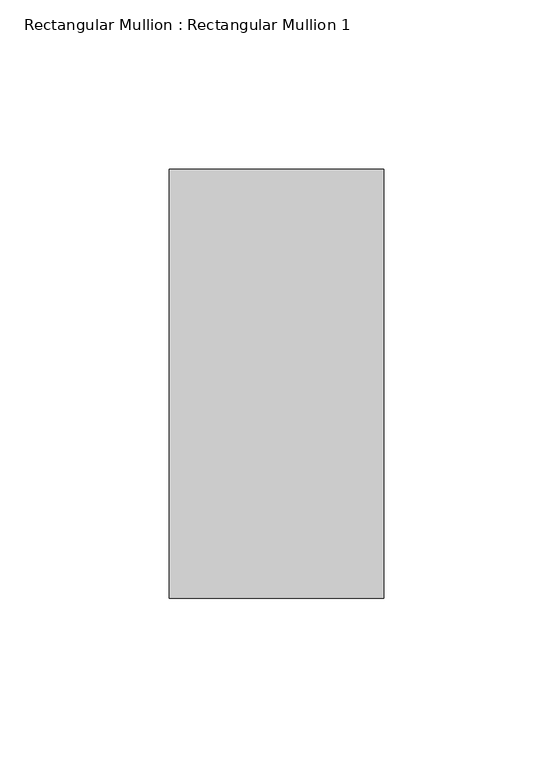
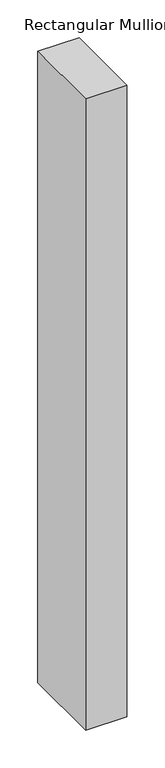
"""IFC4 building model written with IfcOpenShell, lengths in millimetres: member geometry, Rectangular Mullion : Rectangular Mullion 1."""

import ifcopenshell
import ifcopenshell.guid

model = None  # the IFC model being written
_history = None  # IfcOwnerHistory: only IFC2X3 demands one
_inside = {}  # id of a spatial element -> (the spatial element, [elements in it])
_under = {}  # id of a project, library or spatial element -> (it, [spatial elements below it])
_declared = {}  # id of a project -> (the project, [libraries it declares])
_typed = {}  # id of a type object -> (the type object, [elements of that type])
_made_of = {}  # id of a material, layer set ... -> (it, [elements and type objects made of it])


def new_model(schema):
    """Start an empty IFC model of exactly this schema.

    Asked for "IFC4X3", IfcOpenShell would pick the latest addendum, in which some entities
    have other attributes; the version numbers below select the first issue.
    IFC2X3 requires an IfcOwnerHistory on every rooted entity: one is made here for all.
    """
    global model, _history
    if schema == "IFC4X3":
        model = ifcopenshell.file(schema_version=(4, 3, 0, 0))
    else:
        model = ifcopenshell.file(schema=schema)
    _inside.clear()
    _under.clear()
    _declared.clear()
    _typed.clear()
    _made_of.clear()
    _history = None
    if model.schema == "IFC2X3":
        org = make("IfcOrganization", Name="unknown")
        user = make(
            "IfcPersonAndOrganization",
            ThePerson=make("IfcPerson", FamilyName="unknown"),
            TheOrganization=org,
        )
        app = make(
            "IfcApplication",
            ApplicationDeveloper=org,
            Version="unknown",
            ApplicationFullName="unknown",
            ApplicationIdentifier="unknown",
        )
        _history = make(
            "IfcOwnerHistory",
            OwningUser=user,
            OwningApplication=app,
            ChangeAction="ADDED",
            CreationDate=0,
        )
    return model


def make(cls, **values):
    """One entity of the class cls with the attributes given. An attribute that is None is left unset."""
    return model.create_entity(
        cls, **{name: value for name, value in values.items() if value is not None}
    )


def rooted(cls, **values):
    """An entity with a GlobalId (a new one), such as an element, a storey or a relation."""
    return make(cls, GlobalId=ifcopenshell.guid.new(), OwnerHistory=_history, **values)


def si_unit(unit_type, name, prefix=None):
    """IfcSIUnit, for example si_unit("LENGTHUNIT", "METRE", prefix="MILLI")."""
    return make("IfcSIUnit", UnitType=unit_type, Prefix=prefix, Name=name)


def assignment(units):
    """IfcUnitAssignment: the units of a project."""
    return None if units is None else make("IfcUnitAssignment", Units=units)


def point(xyz):
    """IfcCartesianPoint."""
    return None if xyz is None else make("IfcCartesianPoint", Coordinates=xyz)


def direction(xyz):
    """IfcDirection."""
    return None if xyz is None else make("IfcDirection", DirectionRatios=xyz)


def frame(location, z_axis=None, x_axis=None):
    """IfcAxis2Placement3D, a coordinate frame: its origin and axes. An axis left out is left unset."""
    return make(
        "IfcAxis2Placement3D",
        Location=point(location),
        Axis=direction(z_axis),
        RefDirection=direction(x_axis),
    )


def origin():
    """The frame at (0, 0, 0) with its axes left unset."""
    return frame((0.0, 0.0, 0.0))


def place(relative_to, where):
    """IfcLocalPlacement: puts the frame where relative to a parent placement (None: the world)."""
    return make(
        "IfcLocalPlacement", PlacementRelTo=relative_to, RelativePlacement=where
    )


def context(
    kind, dimensions, precision=None, world=None, true_north=None, identifier=None
):
    """IfcGeometricRepresentationContext, for example the 3D "Model" context."""
    return make(
        "IfcGeometricRepresentationContext",
        ContextIdentifier=identifier,
        ContextType=kind,
        CoordinateSpaceDimension=dimensions,
        Precision=precision,
        WorldCoordinateSystem=world,
        TrueNorth=true_north,
    )


def project(units=None, contexts=None):
    """IfcProject with its units and contexts."""
    return rooted(
        "IfcProject",
        Name="project",
        RepresentationContexts=contexts,
        UnitsInContext=assignment(units),
    )


def spatial(cls, under=None, at=None, **own):
    """A site, building, storey or space (cls), placed at a placement, below another one or the project."""
    s = rooted(cls, ObjectPlacement=at, **own)
    if under is not None:
        _under.setdefault(under.id(), (under, []))[1].append(s)
    return s


def polyline(points):
    """IfcPolyline through the points."""
    return make("IfcPolyline", Points=[point(p) for p in points])


def outline(outer, holes=None, kind="AREA"):
    """IfcArbitraryClosedProfileDef: a profile drawn as a closed curve; with holes, ...WithVoids."""
    if holes is None:
        return make("IfcArbitraryClosedProfileDef", ProfileType=kind, OuterCurve=outer)
    return make(
        "IfcArbitraryProfileDefWithVoids",
        ProfileType=kind,
        OuterCurve=outer,
        InnerCurves=holes,
    )


def extrude(swept, where, along, depth):
    """IfcExtrudedAreaSolid: the profile swept, set in the frame where, extruded along a direction by depth."""
    return make(
        "IfcExtrudedAreaSolid",
        SweptArea=swept,
        Position=where,
        ExtrudedDirection=direction(along),
        Depth=depth,
    )


def shape(context_of_items, identifier, shape_type, items):
    """IfcShapeRepresentation: the items that make up one representation, for example the "Body"."""
    return make(
        "IfcShapeRepresentation",
        ContextOfItems=context_of_items,
        RepresentationIdentifier=identifier,
        RepresentationType=shape_type,
        Items=items,
    )


def source(mapping_origin, context_of_items, identifier, shape_type, items):
    """IfcRepresentationMap: a shape defined once, which mapped items show again and again."""
    return make(
        "IfcRepresentationMap",
        MappingOrigin=mapping_origin,
        MappedRepresentation=shape(context_of_items, identifier, shape_type, items),
    )


def transform(
    local_origin,
    x_axis=None,
    y_axis=None,
    z_axis=None,
    scale=None,
    scale2=None,
    scale3=None,
    uniform=True,
):
    """IfcCartesianTransformationOperator3D, or its non-uniform kind. x_axis, y_axis, z_axis: its Axis1, 2, 3."""
    if uniform:
        return make(
            "IfcCartesianTransformationOperator3D",
            Axis1=direction(x_axis),
            Axis2=direction(y_axis),
            LocalOrigin=point(local_origin),
            Scale=scale,
            Axis3=direction(z_axis),
        )
    return make(
        "IfcCartesianTransformationOperator3DnonUniform",
        Axis1=direction(x_axis),
        Axis2=direction(y_axis),
        LocalOrigin=point(local_origin),
        Scale=scale,
        Axis3=direction(z_axis),
        Scale2=scale2,
        Scale3=scale3,
    )


def mapped(mapping_source, mapping_target):
    """IfcMappedItem: shows the shape of a source again, moved by a transform."""
    return make(
        "IfcMappedItem", MappingSource=mapping_source, MappingTarget=mapping_target
    )


def made_of(thing, what):
    """Note that an element or type object is made of a material, layer set ...; save() writes the relation."""
    if what is not None:
        _made_of.setdefault(what.id(), (what, []))[1].append(thing)
    return thing


def element(
    cls,
    number,
    at=None,
    inside=None,
    cuts=None,
    type_object=None,
    material=None,
    context=None,
    identifier="Body",
    shape_type=None,
    held_by="IfcProductDefinitionShape",
    body=None,
    shapes=None,
    **own,
):
    """One element of the class cls, such as IfcWall. Its Tag is "e" and its number.

    at: its placement. inside: the storey or other place that contains it. cuts: it is an
    opening in that element (IfcRelVoidsElement). A single representation is given by context,
    identifier, shape_type and body (its items); several are given by shapes. held_by: the class
    of the entity that holds the representations. save() writes the other relations.
    """
    e = rooted(cls, Tag="e%d" % number, ObjectPlacement=at, **own)
    if body is not None:
        shapes = [shape(context, identifier, shape_type, body)]
    if shapes is not None:
        e.Representation = make(held_by, Representations=shapes)
    if inside is not None:
        _inside.setdefault(inside.id(), (inside, []))[1].append(e)
    if cuts is not None:
        rooted(
            "IfcRelVoidsElement", RelatingBuildingElement=cuts, RelatedOpeningElement=e
        )
    if type_object is not None:
        _typed.setdefault(type_object.id(), (type_object, []))[1].append(e)
    return made_of(e, material)


def aggregate(whole, parts):
    """IfcRelAggregates: a whole, such as a stair, and the parts it consists of."""
    return rooted("IfcRelAggregates", RelatingObject=whole, RelatedObjects=parts)


def save(model, path):
    """Write the relations noted so far, then the file.

    IfcRelAggregates (storeys below a building ...), IfcRelContainedInSpatialStructure (elements
    in a storey), IfcRelDefinesByType, IfcRelAssociatesMaterial and IfcRelDeclares: one each for
    every whole, place, type object, material and project.
    """
    for whole, parts in _under.values():
        aggregate(whole, parts)
    for where, things in _inside.values():
        rooted(
            "IfcRelContainedInSpatialStructure",
            RelatedElements=things,
            RelatingStructure=where,
        )
    for kind, things in _typed.values():
        rooted("IfcRelDefinesByType", RelatedObjects=things, RelatingType=kind)
    for what, things in _made_of.values():
        rooted("IfcRelAssociatesMaterial", RelatedObjects=things, RelatingMaterial=what)
    for by, libraries in _declared.values():
        rooted("IfcRelDeclares", RelatingContext=by, RelatedDefinitions=libraries)
    model.write(path)


def rectangular_mullion_rectangular_mullion_1_448be1d6(model_context):
    return source(origin(), model_context, "Body", "SweptSolid", [
        extrude(outline(polyline([(31.75, 63.5), (31.75, -63.5), (-31.75, -63.5), (-31.75, 63.5), (31.75, 63.5)])), frame((0.0, 0.0, -1022.985), z_axis=(0.0, 0.0, 1.0), x_axis=(1.0, 0.0, 0.0)), (0.0, 0.0, 1.0), 1022.985),
    ])


if __name__ == "__main__":
    model = new_model("IFC4")
    model_context = context("Model", 3, world=origin())
    ifc_project = project(units=[si_unit("LENGTHUNIT", "METRE", prefix="MILLI")], contexts=[model_context])
    site = spatial("IfcSite", under=ifc_project)
    building = spatial("IfcBuilding", under=site)
    placement = place(None, origin())
    rectangular_mullion_rectangular_mullion_1_shape = rectangular_mullion_rectangular_mullion_1_448be1d6(model_context)
    element("IfcMember", 1, ObjectType="Rectangular Mullion : Rectangular Mullion 1", at=placement, inside=building, context=model_context, shape_type="MappedRepresentation", body=[
        mapped(rectangular_mullion_rectangular_mullion_1_shape, transform((0.0, 0.0, 0.0), x_axis=(1.0, 0.0, 0.0), y_axis=(0.0, 1.0, 0.0), z_axis=(0.0, 0.0, 1.0))),
    ])
    save(model, "model.ifc")
